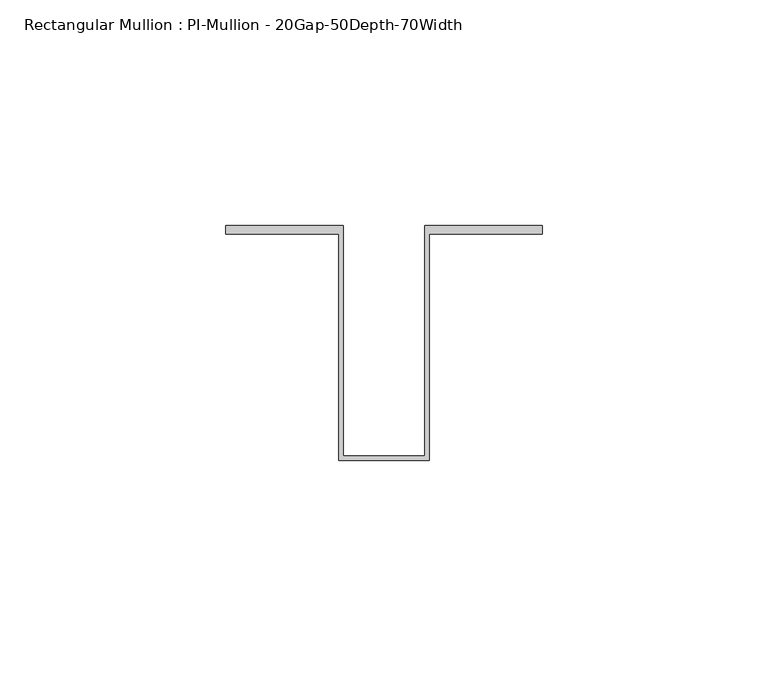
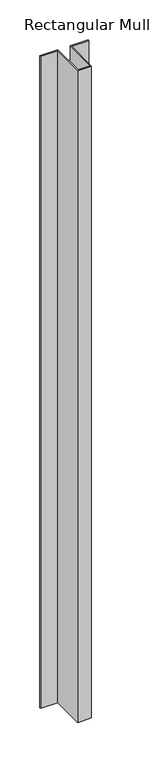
"""IFC4 building model written with IfcOpenShell, lengths in millimetres: member geometry, Rectangular Mullion : PI-Mullion - 20Gap-50Depth-70Width."""

from ifc_helpers import new_model, si_unit, frame, origin, place, context, project, spatial, polyline, outline, extrude, source, transform, mapped, element, save


def rectangular_mullion_pi_mullion_20gap_50depth_70width_e4301adc(model_context):
    return source(origin(), model_context, "Body", "SweptSolid", [
        extrude(outline(polyline([(-10.0, 0.2), (-35.0, 0.2), (-35.0, 2.0), (-9.0, 2.0), (-9.0, -49.0), (9.0, -49.0), (9.0, 2.0), (35.0, 2.0), (35.0, 0.2), (10.0, 0.2), (10.0, -50.0), (-10.0, -50.0), (-10.0, 0.2)])), frame((0.0, 0.0, -1000.0), z_axis=(0.0, 0.0, 1.0), x_axis=(1.0, 0.0, 0.0)), (0.0, 0.0, 1.0), 1000.0),
    ])


if __name__ == "__main__":
    model = new_model("IFC4")
    model_context = context("Model", 3, world=origin())
    ifc_project = project(units=[si_unit("LENGTHUNIT", "METRE", prefix="MILLI")], contexts=[model_context])
    site = spatial("IfcSite", under=ifc_project)
    building = spatial("IfcBuilding", under=site)
    placement = place(None, origin())
    rectangular_mullion_pi_mullion_20gap_50depth_70width_shape = rectangular_mullion_pi_mullion_20gap_50depth_70width_e4301adc(model_context)
    element("IfcMember", 1, ObjectType="Rectangular Mullion : PI-Mullion - 20Gap-50Depth-70Width", at=placement, inside=building, context=model_context, shape_type="MappedRepresentation", body=[
        mapped(rectangular_mullion_pi_mullion_20gap_50depth_70width_shape, transform((0.0, 0.0, 0.0), x_axis=(1.0, 0.0, 0.0), y_axis=(0.0, 1.0, 0.0), z_axis=(0.0, 0.0, 1.0))),
    ])
    save(model, "model.ifc")
